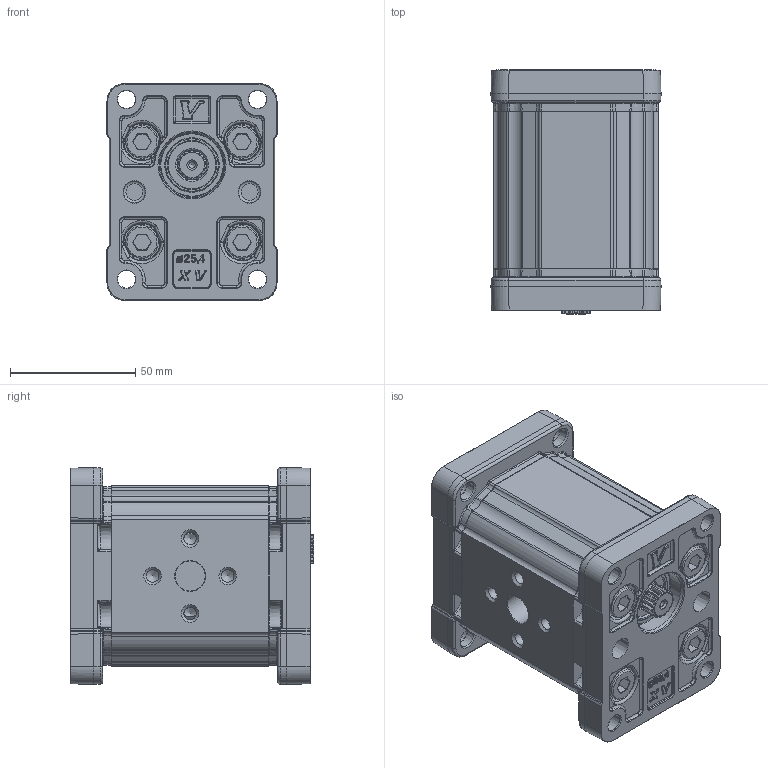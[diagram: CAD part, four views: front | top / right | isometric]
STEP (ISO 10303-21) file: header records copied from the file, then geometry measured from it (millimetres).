
FILE_DESCRIPTION(/* description */ ('Unknown'),/* implementation_level */ '2;1');
FILE_NAME(/* name */ 'X1I3272SIIA',/* time_stamp */ '2026-05-27T08:40:31+02:00',/* author */ ('Unknown'),/* organization */ ('Unknown'),/* preprocessor_version */ 'ST-DEVELOPER v16.7',/* originating_system */ 'Solid Edge',/* authorisation */ 'Unknown');
FILE_SCHEMA (('AUTOMOTIVE_DESIGN {1 0 10303 214 3 1 1}'));
Products named in the file (5): X1I3272SIIA; X1I72; 1S; X1IIH63; XI101-A
Assembly tree (4 placements, depth 2):
  X1I3272SIIA
    X1I72
    1S
    X1IIH63
    XI101-A
Bounding box: 68 x 97.5 x 86.7 mm (x, y, z)
Volume: 403988.4 mm3; surface area: 81897.3 mm2
Topology: 5 solids, 5 shells, 2472 faces, 6106 edges, 3669 vertices
Faces by surface type: cylinder 883, plane 451, bspline 444, torus 391, cone 283, sphere 20
Full cylindrical faces by diameter (mm): 2.5 x2, 3.65 x4, 5 x8, 6.8 x4, 7.15 x8, 7.99 x4, 8 x4, 8.5 x8, 9 x2, 9.337 x8, 9.9 x2, 10.5 x2, 11.965 x2, 12 x2, 13 x4, 13.107 x1, 14.692 x1, 17.135 x1, 19 x2, 21.4 x2, 25.4 x2
Entity records: 106651 total; most frequent: CARTESIAN_POINT 35125, ORIENTED_EDGE 11420, DIRECTION 11360, EDGE_CURVE 5710, AXIS2_PLACEMENT_3D 4851, VERTEX_POINT 3554, FACE_BOUND 2830, EDGE_LOOP 2820
